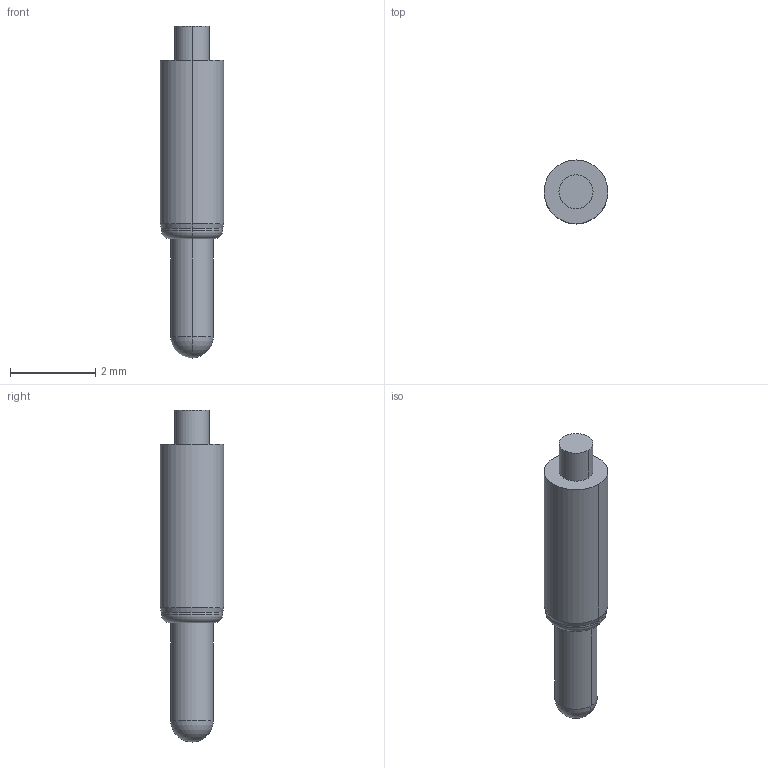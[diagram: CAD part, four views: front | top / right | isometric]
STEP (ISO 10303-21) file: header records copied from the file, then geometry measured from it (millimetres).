
FILE_DESCRIPTION((''),'2;1');
FILE_NAME('PRT0016','2023-05-26T11:11:31',('USER'),(''),'CREO PARAMETRIC BY PTC INC, 2020154','CREO PARAMETRIC BY PTC INC, 2020154','');
FILE_SCHEMA(('CONFIG_CONTROL_DESIGN'));
Length unit declared in the file: millimetre
Products named in the file (1): PRT0016
Bounding box: 1.5 x 1.5 x 7.8 mm (x, y, z)
Volume: 9.8 mm3; surface area: 32.8 mm2
Topology: 1 solids, 1 shells, 17 faces, 34 edges, 19 vertices
Faces by surface type: cylinder 8, plane 3, sphere 2, torus 2, cone 2
Entity records: 470 total; most frequent: DIRECTION 88, CARTESIAN_POINT 68, ORIENTED_EDGE 64, AXIS2_PLACEMENT_3D 39, EDGE_CURVE 32, CIRCLE 22, VERTEX_POINT 19, EDGE_LOOP 19
